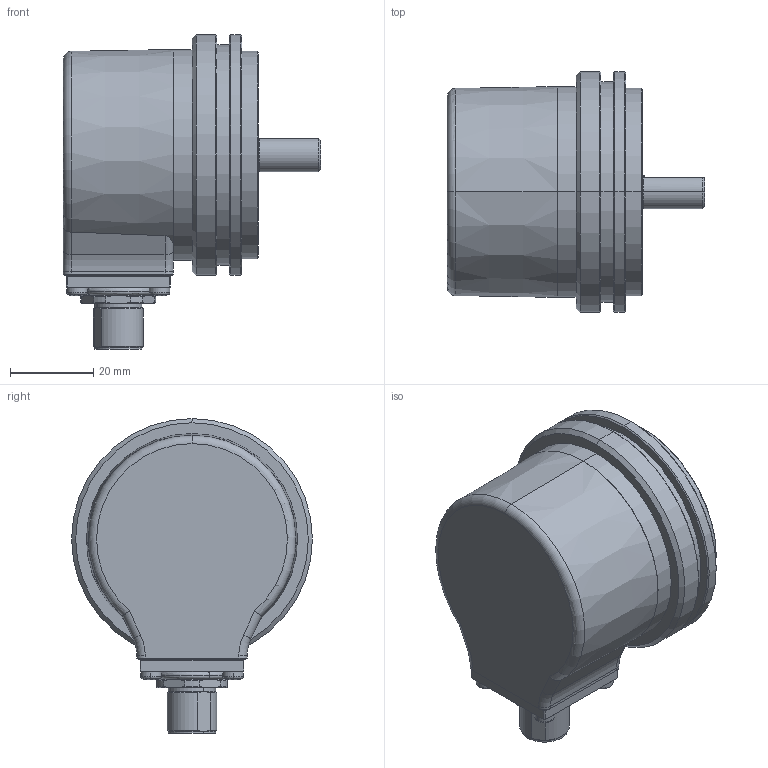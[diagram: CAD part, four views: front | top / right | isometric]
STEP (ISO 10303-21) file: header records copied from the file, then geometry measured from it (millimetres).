
FILE_DESCRIPTION (( 'STEP AP203' ), '1' );
FILE_NAME ('8.5000.A67R.XXXX.STEP', '2017-04-05T07:45:01', ( '' ), ( '' ), 'SwSTEP 2.0', 'SolidWorks 2017', '' );
FILE_SCHEMA (( 'CONFIG_CONTROL_DESIGN' ));
Length unit declared in the file: millimetre
Products named in the file (1): 8.5000.A67R.XXXX
Bounding box: 62 x 58 x 75.8 mm (x, y, z)
Surface area: 37011.2 mm2 (no closed solid volume)
Topology: 0 solids, 16 shells, 629 faces, 1485 edges, 882 vertices
Faces by surface type: plane 208, cylinder 182, cone 118, bspline 62, torus 47, sphere 12
Entity records: 20323 total; most frequent: CARTESIAN_POINT 6086, DIRECTION 3104, ORIENTED_EDGE 2842, EDGE_CURVE 1429, AXIS2_PLACEMENT_3D 1278, VERTEX_POINT 882, EDGE_LOOP 725, CIRCLE 710
